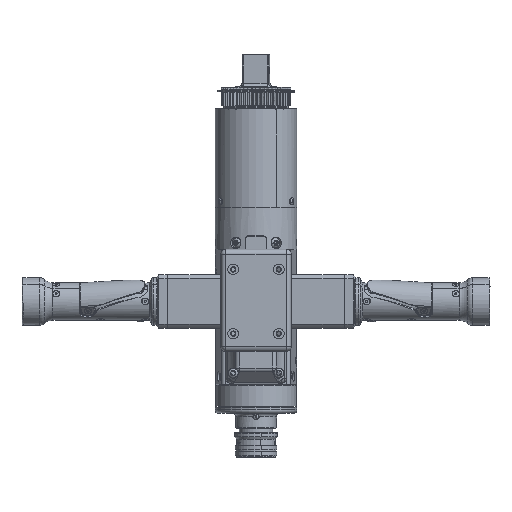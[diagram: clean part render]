
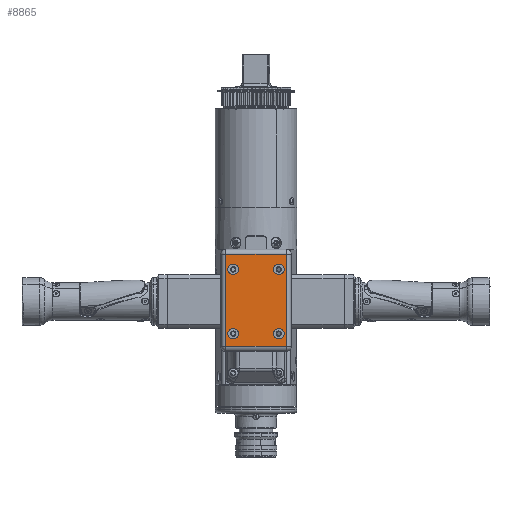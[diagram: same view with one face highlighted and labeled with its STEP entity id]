
A CAD part, front view. The second image highlights one B-rep face of the part: STEP entity #8865.
In plain terms, the highlighted planar face has unit normal (0, -1, 0).
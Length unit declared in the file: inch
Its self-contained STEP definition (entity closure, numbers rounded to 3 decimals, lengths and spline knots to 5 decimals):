
#187 = EDGE_CURVE ( 'NONE', #147387, #75790, #138881, .T. ) ;
#1034 = CARTESIAN_POINT ( 'NONE',  ( 1.3125, -3.7175, -3.6245 ) ) ;
#1835 = ORIENTED_EDGE ( 'NONE', *, *, #79202, .F. ) ;
#4274 = AXIS2_PLACEMENT_3D ( 'NONE', #102321, #28022, #114696 ) ;
#7049 = VECTOR ( 'NONE', #145075, 39.37008 ) ;
#8865 = ADVANCED_FACE ( 'NONE', ( #76655, #38313, #100480, #115654, #150041 ), #79139, .T. ) ;
#12223 = EDGE_CURVE ( 'NONE', #75790, #147387, #154310, .T. ) ;
#12234 = CARTESIAN_POINT ( 'NONE',  ( 1.125, -3.7175, -0.187 ) ) ;
#13572 = DIRECTION ( 'NONE',  ( 1., 0., 0. ) ) ;
#17461 = VERTEX_POINT ( 'NONE', #12234 ) ;
#18047 = CARTESIAN_POINT ( 'NONE',  ( 0.854, -3.7175, -0.75 ) ) ;
#18075 = VERTEX_POINT ( 'NONE', #53412 ) ;
#19695 = CARTESIAN_POINT ( 'NONE',  ( -0.854, -3.7175, -3.348 ) ) ;
#21902 = CARTESIAN_POINT ( 'NONE',  ( 0.854, -3.7175, -0.75 ) ) ;
#22384 = VERTEX_POINT ( 'NONE', #47498 ) ;
#22774 = CIRCLE ( 'NONE', #62250, 0.198 ) ;
#26783 = CARTESIAN_POINT ( 'NONE',  ( -0.854, -3.7175, -0.75 ) ) ;
#28022 = DIRECTION ( 'NONE',  ( 0., -1., 0. ) ) ;
#29161 = CARTESIAN_POINT ( 'NONE',  ( 0.854, -3.7175, -0.948 ) ) ;
#30668 = ORIENTED_EDGE ( 'NONE', *, *, #187, .F. ) ;
#37245 = CARTESIAN_POINT ( 'NONE',  ( 0.854, -3.7175, -2.952 ) ) ;
#38313 = FACE_BOUND ( 'NONE', #130946, .T. ) ;
#39072 = EDGE_CURVE ( 'NONE', #17461, #22384, #106980, .T. ) ;
#39099 = DIRECTION ( 'NONE',  ( 0., -1., 0. ) ) ;
#39141 = DIRECTION ( 'NONE',  ( 0., 0., 1. ) ) ;
#39430 = CIRCLE ( 'NONE', #81651, 0.198 ) ;
#40074 = LINE ( 'NONE', #44732, #7049 ) ;
#41223 = VERTEX_POINT ( 'NONE', #148165 ) ;
#42311 = DIRECTION ( 'NONE',  ( 0., -1., 0. ) ) ;
#44048 = CARTESIAN_POINT ( 'NONE',  ( -1.125, -3.7175, 0.0005 ) ) ;
#44732 = CARTESIAN_POINT ( 'NONE',  ( 1.125, -3.7175, 0.0005 ) ) ;
#45011 = VERTEX_POINT ( 'NONE', #123108 ) ;
#45614 = CARTESIAN_POINT ( 'NONE',  ( 0.854, -3.7175, -3.348 ) ) ;
#47167 = EDGE_CURVE ( 'NONE', #52929, #41223, #150592, .T. ) ;
#47498 = CARTESIAN_POINT ( 'NONE',  ( -1.125, -3.7175, -0.187 ) ) ;
#48684 = AXIS2_PLACEMENT_3D ( 'NONE', #18047, #152753, #143693 ) ;
#49259 = ORIENTED_EDGE ( 'NONE', *, *, #119067, .F. ) ;
#52929 = VERTEX_POINT ( 'NONE', #19695 ) ;
#53412 = CARTESIAN_POINT ( 'NONE',  ( -0.854, -3.7175, -0.948 ) ) ;
#56549 = DIRECTION ( 'NONE',  ( 0., 0., -1. ) ) ;
#57221 = AXIS2_PLACEMENT_3D ( 'NONE', #26783, #113473, #39141 ) ;
#58636 = CIRCLE ( 'NONE', #70924, 0.198 ) ;
#62250 = AXIS2_PLACEMENT_3D ( 'NONE', #148155, #73803, #160686 ) ;
#62789 = ORIENTED_EDGE ( 'NONE', *, *, #116762, .F. ) ;
#65762 = EDGE_CURVE ( 'NONE', #22384, #45011, #79147, .T. ) ;
#66834 = CIRCLE ( 'NONE', #57221, 0.198 ) ;
#69279 = ORIENTED_EDGE ( 'NONE', *, *, #143583, .T. ) ;
#70924 = AXIS2_PLACEMENT_3D ( 'NONE', #74146, #161008, #86618 ) ;
#71373 = EDGE_LOOP ( 'NONE', ( #78878, #79784 ) ) ;
#72183 = DIRECTION ( 'NONE',  ( 0., -1., 0. ) ) ;
#72907 = VERTEX_POINT ( 'NONE', #37245 ) ;
#73803 = DIRECTION ( 'NONE',  ( 0., -1., 0. ) ) ;
#73995 = VECTOR ( 'NONE', #133591, 39.37008 ) ;
#74146 = CARTESIAN_POINT ( 'NONE',  ( -0.854, -3.7175, -0.75 ) ) ;
#75790 = VERTEX_POINT ( 'NONE', #82227 ) ;
#76655 = FACE_BOUND ( 'NONE', #134707, .T. ) ;
#78878 = ORIENTED_EDGE ( 'NONE', *, *, #129792, .F. ) ;
#79139 = PLANE ( 'NONE',  #83029 ) ;
#79147 = LINE ( 'NONE', #44048, #141248 ) ;
#79202 = EDGE_CURVE ( 'NONE', #41223, #52929, #139908, .T. ) ;
#79669 = DIRECTION ( 'NONE',  ( 0., 0., 1. ) ) ;
#79784 = ORIENTED_EDGE ( 'NONE', *, *, #85333, .F. ) ;
#79807 = ORIENTED_EDGE ( 'NONE', *, *, #47167, .F. ) ;
#81043 = LINE ( 'NONE', #1034, #143138 ) ;
#81651 = AXIS2_PLACEMENT_3D ( 'NONE', #116619, #42311, #129085 ) ;
#82227 = CARTESIAN_POINT ( 'NONE',  ( 0.854, -3.7175, -0.552 ) ) ;
#83029 = AXIS2_PLACEMENT_3D ( 'NONE', #110148, #109752, #79669 ) ;
#85333 = EDGE_CURVE ( 'NONE', #18075, #144097, #58636, .T. ) ;
#86618 = DIRECTION ( 'NONE',  ( 0., 0., 1. ) ) ;
#87586 = VERTEX_POINT ( 'NONE', #137430 ) ;
#94329 = ORIENTED_EDGE ( 'NONE', *, *, #106062, .T. ) ;
#95077 = ORIENTED_EDGE ( 'NONE', *, *, #65762, .T. ) ;
#100480 = FACE_BOUND ( 'NONE', #136323, .T. ) ;
#102321 = CARTESIAN_POINT ( 'NONE',  ( -0.854, -3.7175, -3.15 ) ) ;
#102539 = ORIENTED_EDGE ( 'NONE', *, *, #12223, .F. ) ;
#106062 = EDGE_CURVE ( 'NONE', #87586, #17461, #40074, .T. ) ;
#106980 = LINE ( 'NONE', #158699, #73995 ) ;
#109752 = DIRECTION ( 'NONE',  ( 0., -1., 0. ) ) ;
#110148 = CARTESIAN_POINT ( 'NONE',  ( 1.3125, -3.7175, 0.0005 ) ) ;
#113434 = CARTESIAN_POINT ( 'NONE',  ( -0.854, -3.7175, -3.15 ) ) ;
#113473 = DIRECTION ( 'NONE',  ( 0., -1., 0. ) ) ;
#114696 = DIRECTION ( 'NONE',  ( 0., 0., 1. ) ) ;
#115328 = CARTESIAN_POINT ( 'NONE',  ( -0.854, -3.7175, -0.552 ) ) ;
#115654 = FACE_BOUND ( 'NONE', #71373, .T. ) ;
#116619 = CARTESIAN_POINT ( 'NONE',  ( 0.854, -3.7175, -3.15 ) ) ;
#116762 = EDGE_CURVE ( 'NONE', #159603, #72907, #39430, .T. ) ;
#119067 = EDGE_CURVE ( 'NONE', #72907, #159603, #22774, .T. ) ;
#123108 = CARTESIAN_POINT ( 'NONE',  ( -1.125, -3.7175, -3.6245 ) ) ;
#125916 = DIRECTION ( 'NONE',  ( 0., 0., 1. ) ) ;
#129085 = DIRECTION ( 'NONE',  ( 0., 0., 1. ) ) ;
#129792 = EDGE_CURVE ( 'NONE', #144097, #18075, #66834, .T. ) ;
#130946 = EDGE_LOOP ( 'NONE', ( #49259, #62789 ) ) ;
#133591 = DIRECTION ( 'NONE',  ( -1., 0., 0. ) ) ;
#134707 = EDGE_LOOP ( 'NONE', ( #1835, #79807 ) ) ;
#136323 = EDGE_LOOP ( 'NONE', ( #102539, #30668 ) ) ;
#137430 = CARTESIAN_POINT ( 'NONE',  ( 1.125, -3.7175, -3.6245 ) ) ;
#138881 = CIRCLE ( 'NONE', #48684, 0.198 ) ;
#139908 = CIRCLE ( 'NONE', #141970, 0.198 ) ;
#141248 = VECTOR ( 'NONE', #56549, 39.37008 ) ;
#141970 = AXIS2_PLACEMENT_3D ( 'NONE', #113434, #39099, #125916 ) ;
#143138 = VECTOR ( 'NONE', #13572, 39.37008 ) ;
#143583 = EDGE_CURVE ( 'NONE', #45011, #87586, #81043, .T. ) ;
#143693 = DIRECTION ( 'NONE',  ( 0., 0., 1. ) ) ;
#144097 = VERTEX_POINT ( 'NONE', #115328 ) ;
#145075 = DIRECTION ( 'NONE',  ( 0., 0., 1. ) ) ;
#145749 = AXIS2_PLACEMENT_3D ( 'NONE', #21902, #72183, #147589 ) ;
#147387 = VERTEX_POINT ( 'NONE', #29161 ) ;
#147589 = DIRECTION ( 'NONE',  ( 0., 0., 1. ) ) ;
#148155 = CARTESIAN_POINT ( 'NONE',  ( 0.854, -3.7175, -3.15 ) ) ;
#148165 = CARTESIAN_POINT ( 'NONE',  ( -0.854, -3.7175, -2.952 ) ) ;
#149700 = EDGE_LOOP ( 'NONE', ( #94329, #152542, #95077, #69279 ) ) ;
#150041 = FACE_OUTER_BOUND ( 'NONE', #149700, .T. ) ;
#150592 = CIRCLE ( 'NONE', #4274, 0.198 ) ;
#152542 = ORIENTED_EDGE ( 'NONE', *, *, #39072, .T. ) ;
#152753 = DIRECTION ( 'NONE',  ( 0., -1., 0. ) ) ;
#154310 = CIRCLE ( 'NONE', #145749, 0.198 ) ;
#158699 = CARTESIAN_POINT ( 'NONE',  ( -1.125, -3.7175, -0.187 ) ) ;
#159603 = VERTEX_POINT ( 'NONE', #45614 ) ;
#160686 = DIRECTION ( 'NONE',  ( 0., 0., 1. ) ) ;
#161008 = DIRECTION ( 'NONE',  ( 0., -1., 0. ) ) ;
